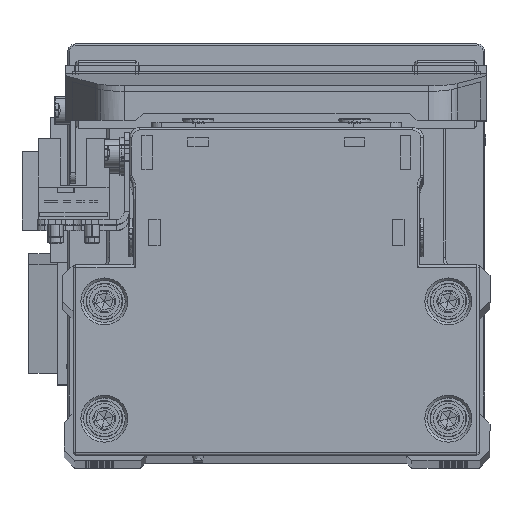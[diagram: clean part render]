
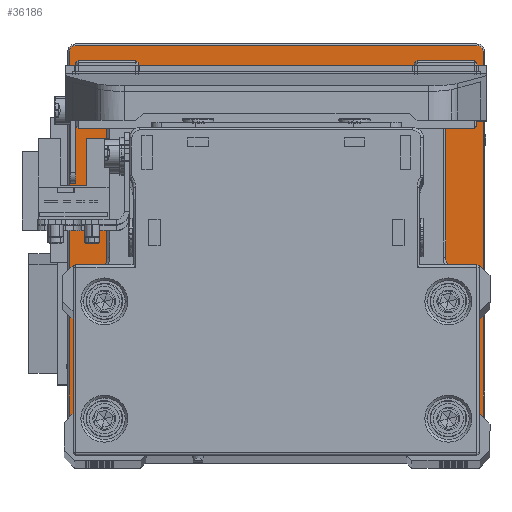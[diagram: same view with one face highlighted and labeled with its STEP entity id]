
A CAD part, top view. The second image highlights one B-rep face of the part: STEP entity #36186.
In plain terms, the highlighted planar face has unit normal (0, 0, 1) as drawn and (0, 1, 0) by its records, which use the part's own axes.
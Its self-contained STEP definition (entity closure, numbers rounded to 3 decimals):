
#498 = EDGE_LOOP ( 'NONE', ( #4812, #27720 ) ) ;
#990 = VECTOR ( 'NONE', #16228, 1000. ) ;
#1443 = AXIS2_PLACEMENT_3D ( 'NONE', #13329, #25640, #37928 ) ;
#2813 = DIRECTION ( 'NONE',  ( 0., 0., -1. ) ) ;
#3149 = VECTOR ( 'NONE', #2813, 1000. ) ;
#3558 = VERTEX_POINT ( 'NONE', #38191 ) ;
#3753 = VECTOR ( 'NONE', #17170, 1000. ) ;
#3938 = CARTESIAN_POINT ( 'NONE',  ( -39.7, 12., 0. ) ) ;
#4388 = ORIENTED_EDGE ( 'NONE', *, *, #30777, .T. ) ;
#4767 = CARTESIAN_POINT ( 'NONE',  ( 0., 12., -39.7 ) ) ;
#4812 = ORIENTED_EDGE ( 'NONE', *, *, #21873, .F. ) ;
#4858 = CARTESIAN_POINT ( 'NONE',  ( 0., 12., 39.7 ) ) ;
#5455 = DIRECTION ( 'NONE',  ( 0., -1., 0. ) ) ;
#5805 = CARTESIAN_POINT ( 'NONE',  ( 38.5, 12., -39.7 ) ) ;
#7088 = DIRECTION ( 'NONE',  ( 0., 0., -1. ) ) ;
#7144 = DIRECTION ( 'NONE',  ( 0., 1., 0. ) ) ;
#7989 = DIRECTION ( 'NONE',  ( 0., 1., 0. ) ) ;
#8317 = ORIENTED_EDGE ( 'NONE', *, *, #17889, .T. ) ;
#8487 = FACE_BOUND ( 'NONE', #498, .T. ) ;
#10363 = CARTESIAN_POINT ( 'NONE',  ( 38.5, 12., 39.7 ) ) ;
#11385 = CIRCLE ( 'NONE', #33923, 1.2 ) ;
#12677 = VECTOR ( 'NONE', #17075, 1000. ) ;
#12732 = CARTESIAN_POINT ( 'NONE',  ( -38.5, 12., 38.5 ) ) ;
#12853 = CARTESIAN_POINT ( 'NONE',  ( 0., 12., 0. ) ) ;
#13329 = CARTESIAN_POINT ( 'NONE',  ( -38.5, 12., -38.5 ) ) ;
#14079 = CARTESIAN_POINT ( 'NONE',  ( -38.5, 12., 39.7 ) ) ;
#15340 = ORIENTED_EDGE ( 'NONE', *, *, #37421, .T. ) ;
#16019 = CIRCLE ( 'NONE', #38555, 1.2 ) ;
#16075 = CIRCLE ( 'NONE', #38616, 1.2 ) ;
#16228 = DIRECTION ( 'NONE',  ( 0., 0., 1. ) ) ;
#16506 = CARTESIAN_POINT ( 'NONE',  ( 0., 12., -20.5 ) ) ;
#16607 = CIRCLE ( 'NONE', #39167, 20.5 ) ;
#16715 = CARTESIAN_POINT ( 'NONE',  ( -38.5, 12., -39.7 ) ) ;
#16772 = ORIENTED_EDGE ( 'NONE', *, *, #35308, .T. ) ;
#17075 = DIRECTION ( 'NONE',  ( -1., 0., 0. ) ) ;
#17170 = DIRECTION ( 'NONE',  ( 1., 0., 0. ) ) ;
#17774 = DIRECTION ( 'NONE',  ( 0., 0., -1. ) ) ;
#17889 = EDGE_CURVE ( 'NONE', #26332, #31843, #16075, .T. ) ;
#18168 = LINE ( 'NONE', #30448, #3149 ) ;
#18291 = CARTESIAN_POINT ( 'NONE',  ( 0., 12., 20.5 ) ) ;
#18860 = CIRCLE ( 'NONE', #1443, 1.2 ) ;
#19307 = AXIS2_PLACEMENT_3D ( 'NONE', #12853, #25162, #37442 ) ;
#19446 = DIRECTION ( 'NONE',  ( 0., 0., 1. ) ) ;
#19455 = VERTEX_POINT ( 'NONE', #24645 ) ;
#20311 = DIRECTION ( 'NONE',  ( 0., 0., -1. ) ) ;
#20808 = PLANE ( 'NONE',  #26148 ) ;
#20958 = EDGE_CURVE ( 'NONE', #19455, #24281, #16019, .T. ) ;
#21476 = CARTESIAN_POINT ( 'NONE',  ( -39.7, 12., 38.5 ) ) ;
#21770 = VERTEX_POINT ( 'NONE', #18291 ) ;
#21873 = EDGE_CURVE ( 'NONE', #21770, #27327, #36692, .T. ) ;
#22410 = CARTESIAN_POINT ( 'NONE',  ( 38.5, 12., -38.5 ) ) ;
#22637 = VERTEX_POINT ( 'NONE', #16715 ) ;
#24281 = VERTEX_POINT ( 'NONE', #5805 ) ;
#24645 = CARTESIAN_POINT ( 'NONE',  ( 39.7, 12., -38.5 ) ) ;
#25036 = DIRECTION ( 'NONE',  ( 0., 1., 0. ) ) ;
#25162 = DIRECTION ( 'NONE',  ( 0., 1., 0. ) ) ;
#25640 = DIRECTION ( 'NONE',  ( 0., 1., 0. ) ) ;
#26148 = AXIS2_PLACEMENT_3D ( 'NONE', #33092, #5455, #17774 ) ;
#26332 = VERTEX_POINT ( 'NONE', #10363 ) ;
#26971 = EDGE_CURVE ( 'NONE', #28198, #26332, #32488, .T. ) ;
#27327 = VERTEX_POINT ( 'NONE', #16506 ) ;
#27720 = ORIENTED_EDGE ( 'NONE', *, *, #34489, .F. ) ;
#28198 = VERTEX_POINT ( 'NONE', #14079 ) ;
#30268 = ORIENTED_EDGE ( 'NONE', *, *, #38366, .T. ) ;
#30448 = CARTESIAN_POINT ( 'NONE',  ( 39.7, 12., 0. ) ) ;
#30777 = EDGE_CURVE ( 'NONE', #22637, #3558, #18860, .T. ) ;
#31236 = ORIENTED_EDGE ( 'NONE', *, *, #38289, .T. ) ;
#31566 = LINE ( 'NONE', #3938, #990 ) ;
#31843 = VERTEX_POINT ( 'NONE', #32947 ) ;
#32405 = LINE ( 'NONE', #4767, #12677 ) ;
#32488 = LINE ( 'NONE', #4858, #3753 ) ;
#32865 = ORIENTED_EDGE ( 'NONE', *, *, #20958, .T. ) ;
#32947 = CARTESIAN_POINT ( 'NONE',  ( 39.7, 12., 38.5 ) ) ;
#33005 = VERTEX_POINT ( 'NONE', #21476 ) ;
#33092 = CARTESIAN_POINT ( 'NONE',  ( 0., 12., 0. ) ) ;
#33604 = ORIENTED_EDGE ( 'NONE', *, *, #26971, .T. ) ;
#33923 = AXIS2_PLACEMENT_3D ( 'NONE', #12732, #25036, #37337 ) ;
#34489 = EDGE_CURVE ( 'NONE', #27327, #21770, #16607, .T. ) ;
#34700 = DIRECTION ( 'NONE',  ( 0., 1., 0. ) ) ;
#34756 = EDGE_LOOP ( 'NONE', ( #32865, #30268, #4388, #15340, #31236, #33604, #8317, #16772 ) ) ;
#34761 = CARTESIAN_POINT ( 'NONE',  ( 0., 12., 0. ) ) ;
#35308 = EDGE_CURVE ( 'NONE', #31843, #19455, #18168, .T. ) ;
#35631 = CARTESIAN_POINT ( 'NONE',  ( 38.5, 12., 38.5 ) ) ;
#36130 = FACE_OUTER_BOUND ( 'NONE', #34756, .T. ) ;
#36186 = ADVANCED_FACE ( 'NONE', ( #36130, #8487 ), #20808, .F. ) ;
#36692 = CIRCLE ( 'NONE', #19307, 20.5 ) ;
#37337 = DIRECTION ( 'NONE',  ( 0., 0., -1. ) ) ;
#37421 = EDGE_CURVE ( 'NONE', #3558, #33005, #31566, .T. ) ;
#37442 = DIRECTION ( 'NONE',  ( 0., 0., 1. ) ) ;
#37928 = DIRECTION ( 'NONE',  ( 0., 0., -1. ) ) ;
#38191 = CARTESIAN_POINT ( 'NONE',  ( -39.7, 12., -38.5 ) ) ;
#38289 = EDGE_CURVE ( 'NONE', #33005, #28198, #11385, .T. ) ;
#38366 = EDGE_CURVE ( 'NONE', #24281, #22637, #32405, .T. ) ;
#38555 = AXIS2_PLACEMENT_3D ( 'NONE', #22410, #34700, #7088 ) ;
#38616 = AXIS2_PLACEMENT_3D ( 'NONE', #35631, #7989, #20311 ) ;
#39167 = AXIS2_PLACEMENT_3D ( 'NONE', #34761, #7144, #19446 ) ;
